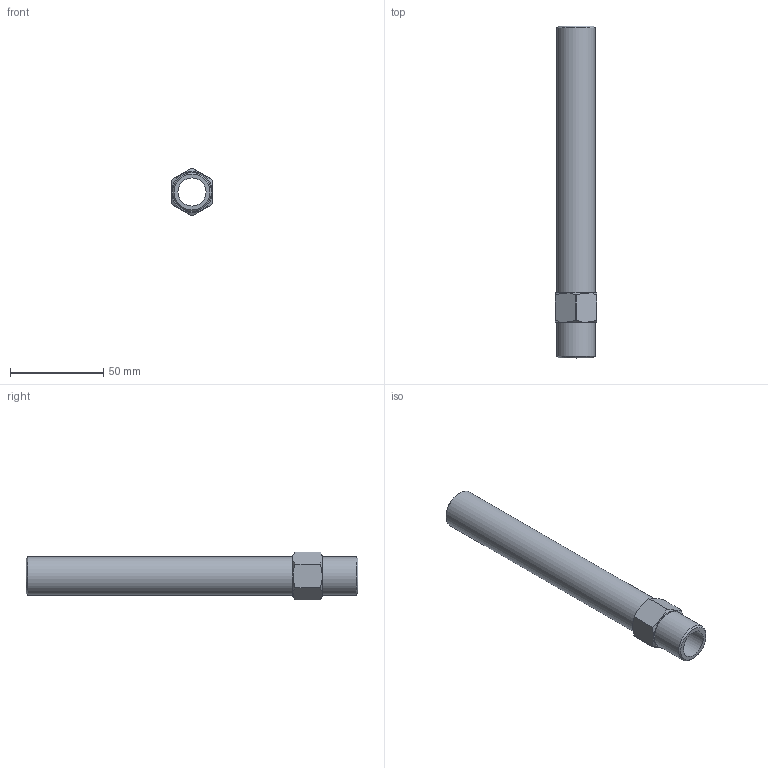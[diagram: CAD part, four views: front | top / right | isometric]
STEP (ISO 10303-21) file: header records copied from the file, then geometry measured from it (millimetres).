
FILE_DESCRIPTION(/* description */ (''),/* implementation_level */ '2;1');
FILE_NAME(/* name */ 'C:/Users/drich/Desktop/APN12-7 v1.step',/* time_stamp */ '2019-12-27T17:41:54-06:00',/* author */ (''),/* organization */ (''),/* preprocessor_version */ 'ST-DEVELOPER v18',/* originating_system */ 'Autodesk Translation Framework v8.12.0.6',/* authorisation */ '');
FILE_SCHEMA (('AUTOMOTIVE_DESIGN { 1 0 10303 214 3 1 1 }'));
Length unit declared in the file: inch
Products named in the file (1): APN12-7
Bounding box: 22.23 x 177.8 x 25.65 mm (x, y, z)
Volume: 30226.4 mm3; surface area: 20588.3 mm2
Topology: 1 solids, 1 shells, 23 faces, 59 edges, 40 vertices
Faces by surface type: plane 10, cylinder 9, cone 4
Full cylindrical faces by diameter (mm): 15.037 x1, 20.813 x2
Entity records: 751 total; most frequent: CARTESIAN_POINT 147, DIRECTION 123, ORIENTED_EDGE 118, EDGE_CURVE 59, AXIS2_PLACEMENT_3D 52, VERTEX_POINT 40, CIRCLE 28, EDGE_LOOP 27
